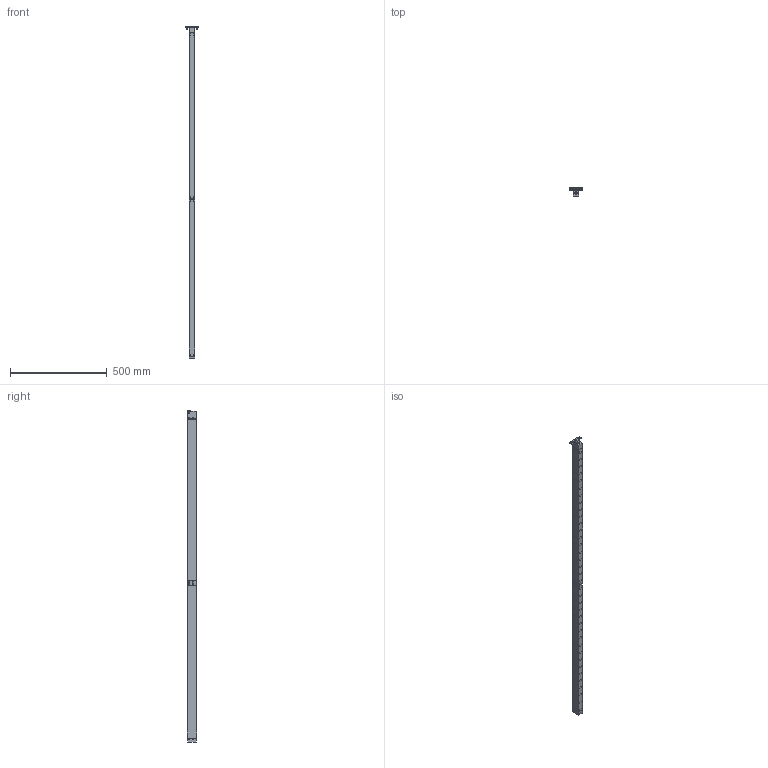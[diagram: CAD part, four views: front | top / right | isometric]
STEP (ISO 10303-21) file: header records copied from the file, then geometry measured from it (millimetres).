
FILE_DESCRIPTION(/* description */ ('DIE LIFTER'),/* implementation_level */ '2;1');
FILE_NAME(/* name */ 'S:\EASCN Vault\Designs\Standard Part\DIE LIFTERS\EHB\EHB- 3D step\EHB28 - 3D step complete serie\EHB28-37.stp',/* time_stamp */ '2019-11-27T11:13:41+08:00',/* author */ ('yue.yang'),/* organization */ (''),/* preprocessor_version */ 'ST-DEVELOPER v17',/* originating_system */ 'Autodesk Inventor 2019',/* authorisation */ '');
FILE_SCHEMA (('AUTOMOTIVE_DESIGN { 1 0 10303 214 3 1 1 }'));
Length unit declared in the file: millimetre
Products named in the file (2): EHB28-37; EHB28-37_Substitute_1
Assembly tree (1 placements, depth 2):
  EHB28-37
    EHB28-37_Substitute_1
Bounding box: 70 x 47.8 x 1714 mm (x, y, z)
Volume: 1922501.4 mm3; surface area: 489255.5 mm2
Topology: 40 solids, 40 shells, 1112 faces, 2997 edges, 2121 vertices
Faces by surface type: plane 448, cylinder 355, cone 157, torus 115, sphere 37
Full cylindrical faces by diameter (mm): 3 x3, 5 x14, 5.5 x2, 6 x42, 6.5 x3, 6.647 x4, 7.5 x1, 10 x5, 10.5 x1, 11.445 x1, 12 x3, 16 x37, 20 x37, 21.5 x37, 24.05 x37, 24.2 x37
Entity records: 42130 total; most frequent: CARTESIAN_POINT 11521, DIRECTION 6475, ORIENTED_EDGE 5966, EDGE_CURVE 2983, AXIS2_PLACEMENT_3D 2774, VERTEX_POINT 2121, CIRCLE 1659, EDGE_LOOP 1420
